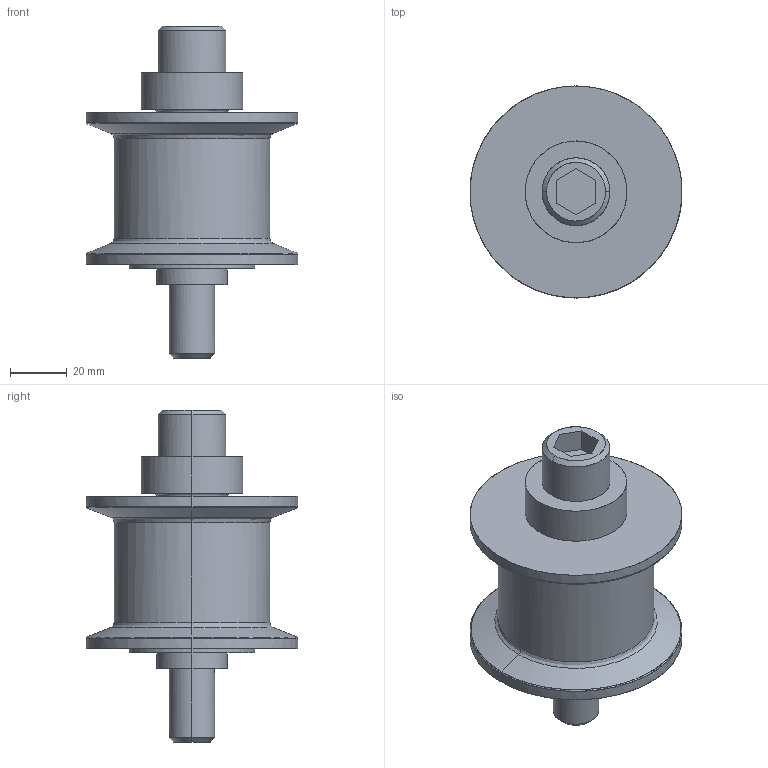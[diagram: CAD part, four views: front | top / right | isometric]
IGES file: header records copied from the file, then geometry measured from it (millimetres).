
Global section: file name: E:\UnigraphicsGraphicData\MISUMI_PRESS-PARTS\IGES\3d_egdrt55-38_03733_r00.igs; native system: NX V5.0; preprocessor: UGS NX IGES V5.0; author: MISUMI; date: 20110105.160613; units: millimetre
Bounding box: 75 x 75 x 117.5 mm (x, y, z)
Surface area: 41498.2 mm2 (no closed solid volume)
Topology: 0 solids, 0 shells, 81 faces, 612 edges, 612 vertices
Faces by surface type: bspline 81
